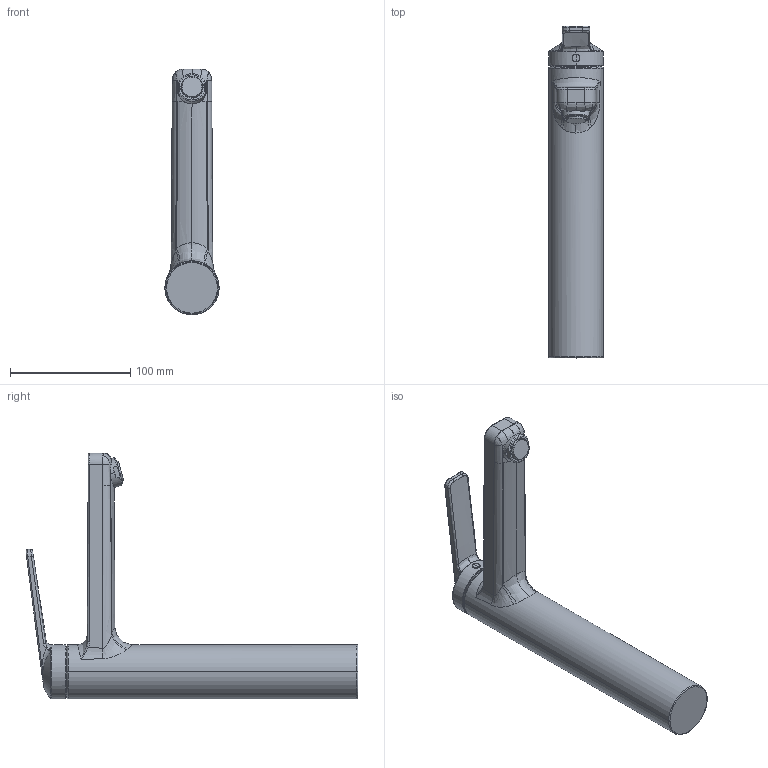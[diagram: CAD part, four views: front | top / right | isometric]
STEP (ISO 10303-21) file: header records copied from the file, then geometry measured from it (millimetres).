
FILE_DESCRIPTION((''),'2;1');
FILE_NAME('002_SW0002','2020-05-07T13:40:54',('LF994'),(''),'CREO PARAMETRIC BY PTC INC, 2018500','CREO PARAMETRIC BY PTC INC, 2018500','');
FILE_SCHEMA(('CONFIG_CONTROL_DESIGN'));
Length unit declared in the file: millimetre
Products named in the file (1): 002_SW0002
Bounding box: 45 x 275.34 x 204.16 mm (x, y, z)
Volume: 194338 mm3; surface area: 114279.5 mm2
Topology: 2 solids, 2 shells, 3450 faces, 8778 edges, 5721 vertices
Faces by surface type: plane 2462, cone 480, bspline 269, cylinder 154, torus 78, sphere 5, revolution 2
Entity records: 130691 total; most frequent: CARTESIAN_POINT 58411, ORIENTED_EDGE 17546, DIRECTION 10411, EDGE_CURVE 8773, VERTEX_POINT 5721, B_SPLINE_CURVE_WITH_KNOTS 5342, EDGE_LOOP 3850, AXIS2_PLACEMENT_3D 3797
